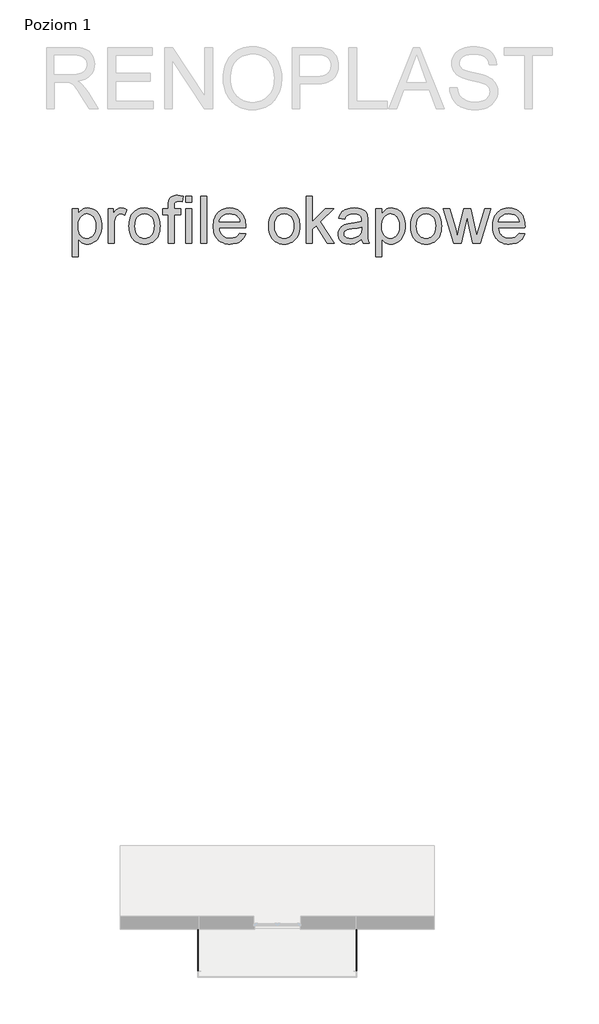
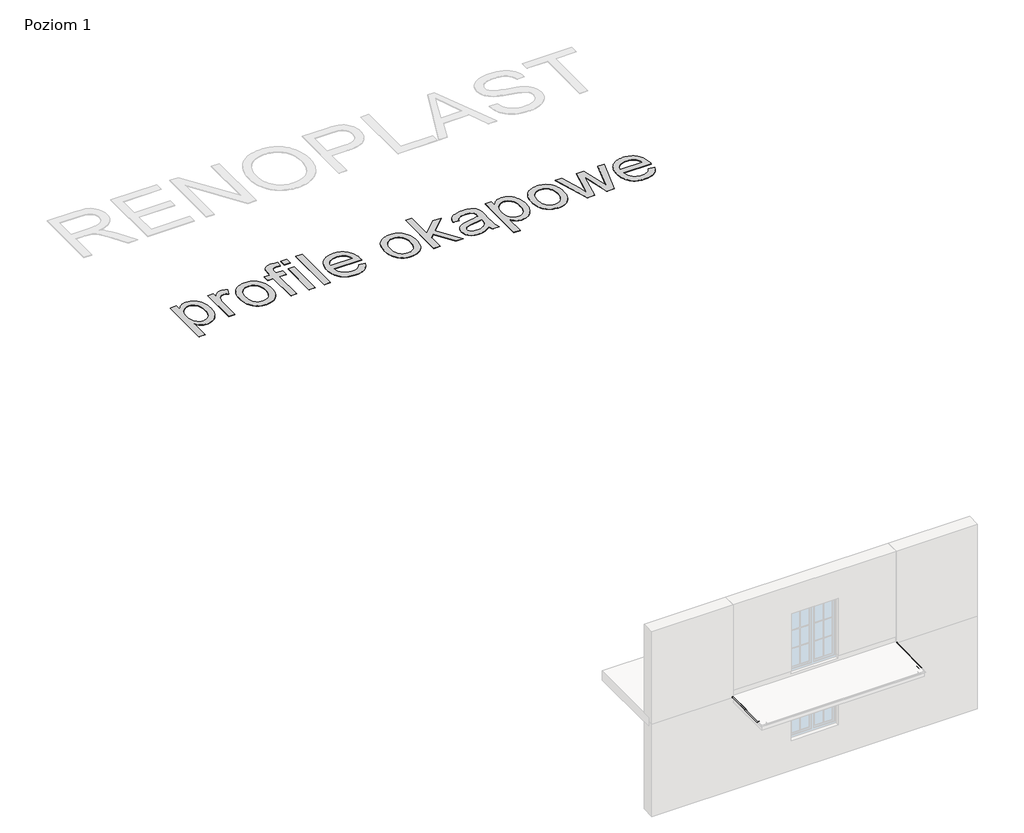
# One storey, part 2 of 3: 5 proxies.
"""IFC4 building model written with IfcOpenShell, lengths in millimetres."""

from ifc_helpers import new_model, si_unit, origin, origin_with_axes, place, context, project, spatial, polyline, outline, extrude, transform, mapped, element, save
from components import k10_195fb894, k10_5e8f6a10, opk10_a9e293d9, opk10_62074a0a

model = new_model("IFC4")

# Units and contexts
model_context = context("Model", 3, world=origin())
ifc_project = project(units=[si_unit("LENGTHUNIT", "METRE", prefix="MILLI")], contexts=[model_context])

# Site, building, storey
site = spatial("IfcSite", under=ifc_project)
building = spatial("IfcBuilding", under=site)
storey = spatial("IfcBuildingStorey", under=building, Name="Poziom 1", Elevation=0.0)

# Proxies
placement = place(None, origin())
element("IfcBuildingElementProxy", 1, Name="1500 mm Arial", ObjectType="1500 mm Arial", at=placement, inside=storey, context=model_context, shape_type="SweptSolid", body=[
    extrude(outline(polyline([(-113855.4830963, 53797.3435837), (-113855.4830963, 55327.7326836), (-113667.1275148, 55327.7326836), (-113667.1275148, 55143.055922), (-113637.3290732, 55191.857768), (-113605.6912216, 55234.1527011), (-113572.21396, 55269.9407214), (-113536.8972885, 55299.221829), (-113498.7295315, 55321.9960238), (-113456.6990136, 55338.2633057), (-113410.8057347, 55348.0236749), (-113361.0496948, 55351.2771313), (-113295.359766, 55346.7245916), (-113233.670554, 55333.0669725), (-113175.9820586, 55310.3042741), (-113122.2942799, 55278.4364963), (-113073.7798418, 55238.2913735), (-113031.6113681, 55190.6966404), (-112995.7888588, 55135.6522969), (-112966.312314, 55073.158343), (-112943.2966967, 55005.3530927), (-112926.85697, 54934.3748603), (-112916.993134, 54860.2236456), (-112913.7051887, 54782.8994488), (-112917.4184976, 54700.2294667), (-112928.5584242, 54621.8131201), (-112947.1249687, 54547.6504092), (-112973.1181309, 54477.7413338), (-113006.1815252, 54413.9138076), (-113045.9587659, 54357.9957443), (-113092.4498531, 54309.987144), (-113145.6547866, 54269.8880065), (-113202.9639037, 54238.2616512), (-113261.7675414, 54215.6713974), (-113322.0656996, 54202.1172452), (-113383.8583785, 54197.5991944), (-113428.3146184, 54200.6227246), (-113470.4486031, 54209.693315), (-113510.2603328, 54224.8109658), (-113547.7498074, 54245.9756768), (-113582.4571743, 54271.7619054), (-113613.9225812, 54300.7441088), (-113642.1460281, 54332.9222871), (-113667.1275148, 54368.2964402), (-113667.1275148, 53797.3435837), (-113855.4830963, 53797.3435837)]), holes=[polyline([(-113667.1275148, 54765.608995), (-113662.0346484, 54674.8341127), (-113646.7560493, 54596.7511592), (-113635.2971, 54562.4691558), (-113621.2917175, 54531.3601346), (-113604.7399017, 54503.4240955), (-113585.6416529, 54478.6610387), (-113542.7259189, 54438.1020488), (-113495.4645788, 54409.1313417), (-113443.8576327, 54391.7489174), (-113387.9050805, 54385.954776), (-113331.1477864, 54391.955851), (-113304.3470082, 54399.4571948), (-113278.5981426, 54409.9590761), (-113230.2561492, 54439.9644514), (-113186.1218061, 54481.9719767), (-113166.4200008, 54507.6259977), (-113149.3451029, 54536.5794604), (-113134.8971123, 54568.8323647), (-113123.0760292, 54604.3847106), (-113113.8818534, 54643.2364982), (-113107.3145849, 54685.3877274), (-113102.0607702, 54779.5885108), (-113107.1881255, 54869.5816439), (-113122.5701914, 54947.5266416), (-113134.1067409, 54981.9810897), (-113148.206968, 55013.423504), (-113164.8708727, 55041.8538844), (-113184.0984551, 55067.272231), (-113227.1176559, 55109.118808), (-113274.1375734, 55139.0092201), (-113325.1582076, 55156.9434674), (-113380.1795586, 55162.9215498), (-113408.0092567, 55161.3321846), (-113435.0284648, 55156.564089), (-113461.2371828, 55148.6172631), (-113486.6354109, 55137.4917069), (-113535.000397, 55105.7044032), (-113580.1234229, 55061.2021781), (-113600.515007, 55034.3324221), (-113618.1877131, 55004.5828398), (-113633.1415414, 54971.9534313), (-113645.3764918, 54936.4441965), (-113654.8925644, 54898.0551355), (-113661.689759, 54856.7862482), (-113667.1275148, 54765.608995)])]), origin_with_axes(), (0.0, 0.0, 1.0), 10.0),
    extrude(outline(polyline([(-112701.8051594, 54221.1436421), (-112701.8051594, 55327.7326836), (-112536.9940256, 55327.7326836), (-112536.9940256, 55164.0251958), (-112505.9539823, 55216.3564096), (-112476.1095554, 55258.9387505), (-112447.460745, 55291.7722186), (-112420.0075511, 55314.8568138), (-112392.508372, 55330.7907027), (-112363.7216059, 55342.1720519), (-112333.6472528, 55349.0008615), (-112302.2853127, 55351.2771313), (-112255.5642993, 55347.6442966), (-112208.4754039, 55336.7457925), (-112161.0186265, 55318.581619), (-112113.1939672, 55293.1517761), (-112176.1017883, 55124.2939403), (-112209.2111679, 55141.1935194), (-112242.3205475, 55153.2646474), (-112275.429927, 55160.5073242), (-112308.5393066, 55162.9215498), (-112337.4065469, 55160.5992947), (-112364.7792666, 55153.6325294), (-112390.6574657, 55142.0212539), (-112415.0411442, 55125.7654683), (-112437.0105971, 55105.3940028), (-112455.6461194, 55081.4356878), (-112470.9477112, 55053.8905235), (-112482.9153723, 55022.7585096), (-112496.2740873, 54971.3470008), (-112505.8160265, 54917.544259), (-112511.5411901, 54861.3502842), (-112513.4495779, 54802.7650765), (-112513.4495779, 54221.1436421), (-112701.8051594, 54221.1436421)])), origin_with_axes(), (0.0, 0.0, 1.0), 10.0),
    extrude(outline(polyline([(-112042.5606241, 54774.4381629), (-112040.0141909, 54848.5721331), (-112032.3748913, 54917.7511926), (-112019.6427254, 54981.9753416), (-112001.8176931, 55041.2445799), (-111978.8997945, 55095.5589076), (-111950.8890294, 55144.9183246), (-111917.785398, 55189.3228311), (-111879.5889002, 55228.7724269), (-111844.6286144, 55257.484467), (-111807.8059259, 55282.3682351), (-111769.1208349, 55303.4237312), (-111728.5733412, 55320.6509552), (-111686.163445, 55334.0499073), (-111641.8911461, 55343.6205873), (-111595.7564446, 55349.3629953), (-111547.7593406, 55351.2771313), (-111494.5572811, 55348.946254), (-111443.8441733, 55341.953622), (-111395.620017, 55330.2992353), (-111349.8848124, 55313.983094), (-111306.6385594, 55293.0051981), (-111265.8812581, 55267.3655475), (-111227.6129084, 55237.0641422), (-111191.8335102, 55202.1009823), (-111159.4570206, 55163.0278907), (-111131.3973962, 55120.3966904), (-111107.6546371, 55074.2073815), (-111088.2287434, 55024.4599638), (-111073.1197148, 54971.1544376), (-111062.3275516, 54914.2908026), (-111055.8522537, 54853.869059), (-111053.6938211, 54789.8892067), (-111057.5105968, 54689.0665474), (-111068.9609239, 54599.6022447), (-111088.0448024, 54521.4962986), (-111114.7622323, 54454.7487091), (-111148.7798205, 54397.0947026), (-111189.764174, 54346.2695057), (-111237.7152928, 54302.2731184), (-111292.6331769, 54265.1055405), (-111352.3795122, 54235.5715141), (-111414.8159846, 54214.475781), (-111479.942594, 54201.8183411), (-111547.7593406, 54197.5991944), (-111601.8006309, 54199.9214495), (-111653.1920211, 54206.8882148), (-111701.9335114, 54218.4994903), (-111748.0251017, 54234.7552759), (-111791.466792, 54255.6555718), (-111832.2585823, 54281.2003778), (-111870.4004726, 54311.3896941), (-111905.8924629, 54346.2235205), (-111937.9240632, 54385.4259456), (-111965.6847834, 54428.7210579), (-111989.1746236, 54476.1088574), (-112008.3935838, 54527.5893441), (-112023.3416639, 54583.162518), (-112034.018864, 54642.8283791), (-112040.4251841, 54706.5869274), (-112042.5606241, 54774.4381629)]), holes=[polyline([(-111854.2050426, 54774.8060449), (-111848.7557905, 54683.4448506), (-111841.9442254, 54642.3599044), (-111832.4080343, 54604.3387253), (-111820.1472172, 54569.3813136), (-111805.1617741, 54537.487669), (-111787.4517049, 54508.6577917), (-111767.0170097, 54482.8916817), (-111744.5187264, 54460.1720944), (-111720.6178931, 54440.4817854), (-111695.3145096, 54423.8207548), (-111668.608576, 54410.1890024), (-111640.5000923, 54399.5865283), (-111610.9890585, 54392.0133326), (-111547.7593406, 54385.954776), (-111484.8515194, 54392.0478215), (-111455.466945, 54399.6641284), (-111427.4619282, 54410.3269581), (-111400.8364688, 54424.0363106), (-111375.5905668, 54440.7921859), (-111351.7242224, 54460.5945839), (-111329.2374354, 54483.4435047), (-111308.8027402, 54509.4136743), (-111291.0926711, 54538.5798187), (-111276.1072279, 54570.941938), (-111263.8464108, 54606.5000321), (-111254.3102197, 54645.254101), (-111247.4986546, 54687.2041448), (-111242.0494026, 54780.6921568), (-111247.5331436, 54869.1562803), (-111254.3878198, 54909.1030917), (-111263.9843665, 54946.1930694), (-111276.3227838, 54980.4262135), (-111291.4030715, 55011.8025239), (-111309.2252297, 55040.3220008), (-111329.7892584, 55065.984644), (-111376.3148345, 55108.3945403), (-111401.5693587, 55125.055571), (-111428.1517069, 55138.6873233), (-111456.0618792, 55149.2897974), (-111485.2998756, 55156.8629932), (-111547.7593406, 55162.9215498), (-111610.9890585, 55156.8859858), (-111640.5000923, 55149.3415308), (-111668.608576, 55138.7792938), (-111695.3145096, 55125.1992749), (-111720.6178931, 55108.6014739), (-111744.5187264, 55088.985891), (-111767.0170097, 55066.352526), (-111787.4517049, 55040.6726383), (-111805.1617741, 55011.9174871), (-111820.1472172, 54980.0870723), (-111832.4080343, 54945.1813939), (-111841.9442254, 54907.200452), (-111848.7557905, 54866.1442465), (-111854.2050426, 54774.8060449)])]), origin_with_axes(), (0.0, 0.0, 1.0), 10.0),
    extrude(outline(polyline([(-110794.7048965, 54221.1436421), (-110794.7048965, 55139.3771021), (-110959.5160303, 55139.3771021), (-110959.5160303, 55327.7326836), (-110794.7048965, 55327.7326836), (-110794.7048965, 55439.2009282), (-110789.7384895, 55531.4473384), (-110783.5304808, 55567.2928403), (-110774.8392687, 55596.2865401), (-110758.4685199, 55629.2349713), (-110736.9474232, 55658.9184498), (-110710.2759786, 55685.3369756), (-110678.454186, 55708.4905486), (-110640.7922667, 55727.3215083), (-110596.600442, 55740.7721937), (-110545.878712, 55748.842605), (-110488.6270765, 55751.5327421), (-110406.865303, 55746.3823941), (-110316.8261847, 55730.9313503), (-110344.4173344, 55554.3479926), (-110400.2434271, 55560.9698686), (-110452.9425229, 55563.1771605), (-110491.811555, 55561.2227874), (-110524.5415562, 55555.3596681), (-110551.1325267, 55545.5878026), (-110571.5844664, 55531.9071909), (-110586.7940876, 55512.8922903), (-110597.6581028, 55487.117558), (-110604.1765119, 55454.5829941), (-110606.3493149, 55415.2885985), (-110606.3493149, 55327.7326836), (-110394.4492857, 55327.7326836), (-110394.4492857, 55139.3771021), (-110606.3493149, 55139.3771021), (-110606.3493149, 54221.1436421), (-110794.7048965, 54221.1436421)])), origin_with_axes(), (0.0, 0.0, 1.0), 10.0),
    extrude(outline(polyline([(-110229.6381519, 54221.1436421), (-110229.6381519, 55327.7326836), (-110041.2825703, 55327.7326836), (-110041.2825703, 54221.1436421), (-110229.6381519, 54221.1436421)])), origin_with_axes(), (0.0, 0.0, 1.0), 10.0),
    extrude(outline(polyline([(-110229.6381519, 55539.6327128), (-110229.6381519, 55727.9882944), (-110041.2825703, 55727.9882944), (-110041.2825703, 55539.6327128), (-110229.6381519, 55539.6327128)])), origin_with_axes(), (0.0, 0.0, 1.0), 10.0),
    extrude(outline(polyline([(-109758.749198, 54221.1436421), (-109758.749198, 55727.9882944), (-109570.3936165, 55727.9882944), (-109570.3936165, 54221.1436421), (-109758.749198, 54221.1436421)])), origin_with_axes(), (0.0, 0.0, 1.0), 10.0),
    extrude(outline(polyline([(-108513.1007624, 54550.7659098), (-108328.4240008, 54527.2214621), (-108356.7394181, 54453.2541885), (-108374.6133097, 54419.5642451), (-108394.9646567, 54388.0700974), (-108417.7934589, 54358.7717454), (-108443.0997165, 54331.669189), (-108470.8834293, 54306.7624283), (-108501.1445975, 54284.0514633), (-108533.733769, 54263.7892128), (-108568.5014916, 54246.2285957), (-108605.4477654, 54231.369612), (-108644.5725904, 54219.2122616), (-108729.357894, 54203.0024612), (-108822.8574023, 54197.5991944), (-108882.8853972, 54199.9300718), (-108939.7289136, 54206.9227037), (-108993.3879515, 54218.5770904), (-109043.8625109, 54234.8932317), (-109091.1525918, 54255.8711277), (-109135.2581941, 54281.5107783), (-109176.1793179, 54311.8121835), (-109213.9159632, 54346.7753435), (-109247.8013438, 54385.9461537), (-109277.1686737, 54428.87051), (-109302.0179529, 54475.5484122), (-109322.3491813, 54525.9798604), (-109338.1623589, 54580.1648546), (-109349.4574858, 54638.1033947), (-109356.2345619, 54699.7954809), (-109358.4935873, 54765.241113), (-109356.2115693, 54832.9141556), (-109349.3655153, 54896.6899484), (-109337.9554253, 54956.5684913), (-109321.9812993, 55012.5497842), (-109301.4431372, 55064.6338273), (-109276.3409392, 55112.8206206), (-109246.6747052, 55157.1101639), (-109212.4444352, 55197.5024573), (-109174.5755823, 55233.5433965), (-109133.9935997, 55264.7788772), (-109090.6984874, 55291.2088993), (-109044.6902454, 55312.8334628), (-108995.9688737, 55329.6525678), (-108944.5343722, 55341.6662142), (-108890.386741, 55348.874402), (-108833.5259802, 55351.2771313), (-108778.5247478, 55348.8801502), (-108726.0929413, 55341.6892068), (-108676.2305605, 55329.7043012), (-108628.9376056, 55312.9254333), (-108584.2140765, 55291.3526032), (-108542.0599732, 55264.9858108), (-108502.4752957, 55233.8250562), (-108465.460044, 55197.8703393), (-108431.9626639, 55157.5700164), (-108402.9316011, 55113.3724436), (-108378.3668557, 55065.2776208), (-108358.2684276, 55013.2855482), (-108342.6363169, 54957.3962258), (-108331.4705236, 54897.6096534), (-108324.7710475, 54833.9258311), (-108322.5378889, 54766.344759), (-108323.6415348, 54715.5770436), (-109170.1380058, 54715.5770436), (-109159.2280053, 54640.4141535), (-109149.7291773, 54606.3333355), (-109137.5344639, 54574.586269), (-109122.6438654, 54545.1729538), (-109105.0573815, 54518.0933901), (-109084.7750125, 54493.3475778), (-109061.7967582, 54470.9355168), (-109010.1438268, 54433.7564427), (-108952.4898204, 54407.1999612), (-108888.8347389, 54391.2660723), (-108819.1785824, 54385.954776), (-108767.0772948, 54388.4149868), (-108718.9307387, 54395.7956193), (-108674.738914, 54408.0966735), (-108634.5018208, 54425.3181494), (-108598.219459, 54447.9198995), (-108565.8918287, 54476.3617763), (-108537.5189298, 54510.6437797), (-108513.1007624, 54550.7659098)]), holes=[polyline([(-109170.1380058, 54903.9326252), (-108510.8934704, 54903.9326252), (-108520.5733654, 54957.2295292), (-108536.3692986, 55003.4447049), (-108558.2812699, 55042.5781521), (-108586.3092794, 55074.6298709), (-108611.1068251, 55095.3232332), (-108637.674803, 55113.2574804), (-108666.0132129, 55128.4326127), (-108696.122055, 55140.8486301), (-108761.6510354, 55157.4033198), (-108834.2617442, 55162.9215498), (-108900.4919996, 55158.5184621), (-108961.2270177, 55145.3091993), (-109016.4667986, 55123.2937611), (-109066.2113421, 55092.4721477), (-109107.9544523, 55054.2699018), (-109139.1899329, 55010.112566), (-109159.9177841, 54960.0001405), (-109170.1380058, 54903.9326252)])]), origin_with_axes(), (0.0, 0.0, 1.0), 10.0),
    extrude(outline(polyline([(-107592.6600104, 54774.4381629), (-107590.1135772, 54848.5721331), (-107582.4742777, 54917.7511926), (-107569.7421118, 54981.9753416), (-107551.9170795, 55041.2445799), (-107528.9991808, 55095.5589076), (-107500.9884158, 55144.9183246), (-107467.8847843, 55189.3228311), (-107429.6882866, 55228.7724269), (-107394.7280007, 55257.484467), (-107357.9053123, 55282.3682351), (-107319.2202212, 55303.4237312), (-107278.6727275, 55320.6509552), (-107236.2628313, 55334.0499073), (-107191.9905324, 55343.6205873), (-107145.855831, 55349.3629953), (-107097.8587269, 55351.2771313), (-107044.6566674, 55348.946254), (-106993.9435596, 55341.953622), (-106945.7194034, 55330.2992353), (-106899.9841988, 55313.983094), (-106856.7379458, 55293.0051981), (-106815.9806444, 55267.3655475), (-106777.7122947, 55237.0641422), (-106741.9328966, 55202.1009823), (-106709.5564069, 55163.0278907), (-106681.4967826, 55120.3966904), (-106657.7540235, 55074.2073815), (-106638.3281297, 55024.4599638), (-106623.2191012, 54971.1544376), (-106612.426938, 54914.2908026), (-106605.95164, 54853.869059), (-106603.7932074, 54789.8892067), (-106607.6099831, 54689.0665474), (-106619.0603102, 54599.6022447), (-106638.1441887, 54521.4962986), (-106664.8616186, 54454.7487091), (-106698.8792068, 54397.0947026), (-106739.8635604, 54346.2695057), (-106787.8146792, 54302.2731184), (-106842.7325633, 54265.1055405), (-106902.4788985, 54235.5715141), (-106964.9153709, 54214.475781), (-107030.0419804, 54201.8183411), (-107097.8587269, 54197.5991944), (-107151.9000172, 54199.9214495), (-107203.2914075, 54206.8882148), (-107252.0328978, 54218.4994903), (-107298.124488, 54234.7552759), (-107341.5661783, 54255.6555718), (-107382.3579686, 54281.2003778), (-107420.4998589, 54311.3896941), (-107455.9918492, 54346.2235205), (-107488.0234495, 54385.4259456), (-107515.7841698, 54428.7210579), (-107539.27401, 54476.1088574), (-107558.4929701, 54527.5893441), (-107573.4410503, 54583.162518), (-107584.1182504, 54642.8283791), (-107590.5245704, 54706.5869274), (-107592.6600104, 54774.4381629)]), holes=[polyline([(-107404.3044289, 54774.8060449), (-107398.8551768, 54683.4448506), (-107392.0436118, 54642.3599044), (-107382.5074207, 54604.3387253), (-107370.2466036, 54569.3813136), (-107355.2611604, 54537.487669), (-107337.5510912, 54508.6577917), (-107317.116396, 54482.8916817), (-107294.6181128, 54460.1720944), (-107270.7172794, 54440.4817854), (-107245.4138959, 54423.8207548), (-107218.7079623, 54410.1890024), (-107190.5994786, 54399.5865283), (-107161.0884448, 54392.0133326), (-107097.8587269, 54385.954776), (-107034.9509057, 54392.0478215), (-107005.5663314, 54399.6641284), (-106977.5613145, 54410.3269581), (-106950.9358551, 54424.0363106), (-106925.6899532, 54440.7921859), (-106901.8236087, 54460.5945839), (-106879.3368218, 54483.4435047), (-106858.9021266, 54509.4136743), (-106841.1920574, 54538.5798187), (-106826.2066143, 54570.941938), (-106813.9457971, 54606.5000321), (-106804.409606, 54645.254101), (-106797.598041, 54687.2041448), (-106792.1487889, 54780.6921568), (-106797.6325299, 54869.1562803), (-106804.4872062, 54909.1030917), (-106814.0837529, 54946.1930694), (-106826.4221701, 54980.4262135), (-106841.5024578, 55011.8025239), (-106859.3246161, 55040.3220008), (-106879.8886448, 55065.984644), (-106926.4142209, 55108.3945403), (-106951.668745, 55125.055571), (-106978.2510932, 55138.6873233), (-107006.1612655, 55149.2897974), (-107035.3992619, 55156.8629932), (-107097.8587269, 55162.9215498), (-107161.0884448, 55156.8859858), (-107190.5994786, 55149.3415308), (-107218.7079623, 55138.7792938), (-107245.4138959, 55125.1992749), (-107270.7172794, 55108.6014739), (-107294.6181128, 55088.985891), (-107317.116396, 55066.352526), (-107337.5510912, 55040.6726383), (-107355.2611604, 55011.9174871), (-107370.2466036, 54980.0870723), (-107382.5074207, 54945.1813939), (-107392.0436118, 54907.200452), (-107398.8551768, 54866.1442465), (-107404.3044289, 54774.8060449)])]), origin_with_axes(), (0.0, 0.0, 1.0), 10.0),
    extrude(outline(polyline([(-106391.8931782, 54221.1436421), (-106391.8931782, 55727.9882944), (-106203.5375966, 55727.9882944), (-106203.5375966, 54918.280023), (-105781.2090662, 55327.7326836), (-105520.7486136, 55327.7326836), (-105948.227492, 54913.1296751), (-105497.2041659, 54221.1436421), (-105717.197599, 54221.1436421), (-106083.2401842, 54782.1636848), (-106203.5375966, 54665.5450923), (-106203.5375966, 54221.1436421), (-106391.8931782, 54221.1436421)])), origin_with_axes(), (0.0, 0.0, 1.0), 10.0),
    extrude(outline(polyline([(-104626.0596013, 54362.4103283), (-104670.7227748, 54320.4947734), (-104716.0527344, 54285.2470798), (-104762.0494801, 54256.6672473), (-104808.7130119, 54234.7552759), (-104856.5721602, 54218.4994903), (-104906.1557554, 54206.8882148), (-104957.4637974, 54199.9214495), (-105010.4962863, 54197.5991944), (-105094.3618849, 54203.1864022), (-105132.423301, 54210.170412), (-105167.903795, 54219.9480256), (-105200.8033668, 54232.5192432), (-105231.1220166, 54247.8840646), (-105258.8597442, 54266.04249), (-105284.0165497, 54286.9945193), (-105306.3912476, 54310.1193516), (-105325.7826525, 54334.796186), (-105342.1907643, 54361.0250226), (-105355.615583, 54388.8058614), (-105366.0571087, 54418.1387024), (-105373.5153413, 54449.0235455), (-105379.4819274, 54515.4492383), (-105377.2286502, 54555.3874274), (-105370.4688186, 54593.5321917), (-105359.2024325, 54629.8835314), (-105343.4294919, 54664.4414463), (-105323.9892277, 54696.4471799), (-105301.7208707, 54725.1419755), (-105276.6244209, 54750.5258332), (-105248.6998782, 54772.5987529), (-105186.3898652, 54808.4672474), (-105116.8141829, 54834.4029281), (-105049.0319253, 54848.8422964), (-104953.842459, 54862.7298417), (-104850.2376921, 54876.985269), (-104761.2562346, 54892.5282833), (-104686.8980863, 54909.3588846), (-104627.1632473, 54927.4770729), (-104626.0596013, 54969.4156203), (-104629.3015614, 55015.078973), (-104639.0274417, 55053.4766562), (-104655.2372421, 55084.6086701), (-104677.9309626, 55108.4750145), (-104717.1563804, 55132.2953737), (-104764.9350545, 55149.309916), (-104821.266985, 55159.5186413), (-104886.1521719, 55162.9215498), (-104946.4848191, 55160.6567762), (-104998.3561804, 55153.8624556), (-105041.7662559, 55142.538588), (-105076.7150454, 55126.6851733), (-105105.4328337, 55105.0606097), (-105130.1499052, 55076.4232957), (-105150.8662601, 55040.7732311), (-105167.5818982, 54998.1104159), (-105355.9374798, 55021.6548636), (-105341.6015783, 55075.9174579), (-105323.2419674, 55124.6618223), (-105300.8586473, 55167.8879567), (-105274.4516178, 55205.5958612), (-105242.8827441, 55238.5442924), (-105205.0138912, 55267.4920069), (-105160.8450592, 55292.4390047), (-105110.376248, 55313.3852858), (-105054.6306294, 55329.9629682), (-104994.6313752, 55341.8041699), (-104930.3784855, 55348.908891), (-104861.8719602, 55351.2771313), (-104794.9059408, 55349.1848025), (-104734.5388047, 55342.9078159), (-104680.7705518, 55332.4461717), (-104633.6011822, 55317.7998697), (-104592.6398213, 55299.9920819), (-104557.4955945, 55280.04598), (-104528.1685017, 55257.961564), (-104504.6585429, 55233.7388338), (-104485.597657, 55206.7799814), (-104469.6177829, 55176.4871983), (-104456.7189204, 55142.8604847), (-104446.9010697, 55105.8998405), (-104440.0032823, 55040.7847274), (-104437.7040198, 54941.0887067), (-104437.7040198, 54706.7478758), (-104435.3127868, 54502.6193537), (-104428.1390879, 54379.516841), (-104413.9756311, 54298.6287874), (-104390.6151244, 54221.1436421), (-104578.9707059, 54221.1436421), (-104595.7093367, 54252.5975527), (-104609.1370295, 54286.6266373), (-104619.2537844, 54323.2308958), (-104626.0596013, 54362.4103283)]), holes=[polyline([(-104626.0596013, 54739.1214913), (-104682.9893401, 54722.8197204), (-104752.6110077, 54707.7595512), (-104929.9301293, 54681.3640181), (-105027.6487843, 54666.9246498), (-105091.9821482, 54650.8298125), (-105134.1506219, 54629.9525093), (-105151.1306753, 54616.5478091), (-105165.3746063, 54601.1657431), (-105176.6409924, 54584.3581345), (-105184.688411, 54566.6768061), (-105189.5168622, 54548.121758), (-105191.1263459, 54528.6929901), (-105187.6199707, 54499.4233788), (-105177.1008449, 54472.6829563), (-105159.5689685, 54448.4717225), (-105135.0243417, 54426.7896774), (-105103.6968905, 54408.924408), (-105065.8165413, 54396.1635013), (-105021.3832941, 54388.5069573), (-104970.3971488, 54385.954776), (-104918.3418465, 54388.7713725), (-104869.2296001, 54397.2211621), (-104823.0604097, 54411.3041447), (-104779.8342753, 54431.0203204), (-104740.8387838, 54454.7372127), (-104707.3615223, 54480.8223455), (-104679.4024906, 54509.2757185), (-104656.9616889, 54540.0973319), (-104643.9248707, 54567.6884816), (-104634.6128577, 54601.1657431), (-104629.0256499, 54640.5291166), (-104627.1632473, 54685.778602), (-104626.0596013, 54739.1214913)])]), origin_with_axes(), (0.0, 0.0, 1.0), 10.0),
    extrude(outline(polyline([(-104178.7150952, 53797.3435837), (-104178.7150952, 55327.7326836), (-103990.3595137, 55327.7326836), (-103990.3595137, 55143.055922), (-103960.5610721, 55191.857768), (-103928.9232205, 55234.1527011), (-103895.4459589, 55269.9407214), (-103860.1292874, 55299.221829), (-103821.9615304, 55321.9960238), (-103779.9310124, 55338.2633057), (-103734.0377335, 55348.0236749), (-103684.2816937, 55351.2771313), (-103618.5917649, 55346.7245916), (-103556.9025528, 55333.0669725), (-103499.2140575, 55310.3042741), (-103445.5262788, 55278.4364963), (-103397.0118407, 55238.2913735), (-103354.843367, 55190.6966404), (-103319.0208577, 55135.6522969), (-103289.5443128, 55073.158343), (-103266.5286955, 55005.3530927), (-103250.0889689, 54934.3748603), (-103240.2251329, 54860.2236456), (-103236.9371875, 54782.8994488), (-103240.6504964, 54700.2294667), (-103251.7904231, 54621.8131201), (-103270.3569675, 54547.6504092), (-103296.3501298, 54477.7413338), (-103329.4135241, 54413.9138076), (-103369.1907648, 54357.9957443), (-103415.6818519, 54309.987144), (-103468.8867855, 54269.8880065), (-103526.1959026, 54238.2616512), (-103584.9995402, 54215.6713974), (-103645.2976985, 54202.1172452), (-103707.0903774, 54197.5991944), (-103751.5466172, 54200.6227246), (-103793.680602, 54209.693315), (-103833.4923317, 54224.8109658), (-103870.9818062, 54245.9756768), (-103905.6891732, 54271.7619054), (-103937.1545801, 54300.7441088), (-103965.3780269, 54332.9222871), (-103990.3595137, 54368.2964402), (-103990.3595137, 53797.3435837), (-104178.7150952, 53797.3435837)]), holes=[polyline([(-103990.3595137, 54765.608995), (-103985.2666473, 54674.8341127), (-103969.9880482, 54596.7511592), (-103958.5290988, 54562.4691558), (-103944.5237163, 54531.3601346), (-103927.9719006, 54503.4240955), (-103908.8736517, 54478.6610387), (-103865.9579177, 54438.1020488), (-103818.6965777, 54409.1313417), (-103767.0896315, 54391.7489174), (-103711.1370793, 54385.954776), (-103654.3797853, 54391.955851), (-103627.5790071, 54399.4571948), (-103601.8301415, 54409.9590761), (-103553.4881481, 54439.9644514), (-103509.353805, 54481.9719767), (-103489.6519997, 54507.6259977), (-103472.5771018, 54536.5794604), (-103458.1291112, 54568.8323647), (-103446.308028, 54604.3847106), (-103437.1138522, 54643.2364982), (-103430.5465838, 54685.3877274), (-103425.2927691, 54779.5885108), (-103430.4201244, 54869.5816439), (-103445.8021903, 54947.5266416), (-103457.3387397, 54981.9810897), (-103471.4389668, 55013.423504), (-103488.1028716, 55041.8538844), (-103507.330454, 55067.272231), (-103550.3496548, 55109.118808), (-103597.3695723, 55139.0092201), (-103648.3902065, 55156.9434674), (-103703.4115574, 55162.9215498), (-103731.2412555, 55161.3321846), (-103758.2604636, 55156.564089), (-103784.4691817, 55148.6172631), (-103809.8674098, 55137.4917069), (-103858.2323958, 55105.7044032), (-103903.3554218, 55061.2021781), (-103923.7470058, 55034.3324221), (-103941.419712, 55004.5828398), (-103956.3735403, 54971.9534313), (-103968.6084907, 54936.4441965), (-103978.1245632, 54898.0551355), (-103984.9217579, 54856.7862482), (-103990.3595137, 54765.608995)])]), origin_with_axes(), (0.0, 0.0, 1.0), 10.0),
    extrude(outline(polyline([(-103072.1260537, 54774.4381629), (-103069.5796205, 54848.5721331), (-103061.940321, 54917.7511926), (-103049.208155, 54981.9753416), (-103031.3831227, 55041.2445799), (-103008.4652241, 55095.5589076), (-102980.454459, 55144.9183246), (-102947.3508276, 55189.3228311), (-102909.1543298, 55228.7724269), (-102874.194044, 55257.484467), (-102837.3713555, 55282.3682351), (-102798.6862645, 55303.4237312), (-102758.1387708, 55320.6509552), (-102715.7288746, 55334.0499073), (-102671.4565757, 55343.6205873), (-102625.3218742, 55349.3629953), (-102577.3247702, 55351.2771313), (-102524.1227107, 55348.946254), (-102473.4096029, 55341.953622), (-102425.1854466, 55330.2992353), (-102379.450242, 55313.983094), (-102336.2039891, 55293.0051981), (-102295.4466877, 55267.3655475), (-102257.178338, 55237.0641422), (-102221.3989399, 55202.1009823), (-102189.0224502, 55163.0278907), (-102160.9628258, 55120.3966904), (-102137.2200668, 55074.2073815), (-102117.794173, 55024.4599638), (-102102.6851445, 54971.1544376), (-102091.8929812, 54914.2908026), (-102085.4176833, 54853.869059), (-102083.2592507, 54789.8892067), (-102087.0760264, 54689.0665474), (-102098.5263535, 54599.6022447), (-102117.610232, 54521.4962986), (-102144.3276619, 54454.7487091), (-102178.3452501, 54397.0947026), (-102219.3296036, 54346.2695057), (-102267.2807224, 54302.2731184), (-102322.1986065, 54265.1055405), (-102381.9449418, 54235.5715141), (-102444.3814142, 54214.475781), (-102509.5080236, 54201.8183411), (-102577.3247702, 54197.5991944), (-102631.3660605, 54199.9214495), (-102682.7574507, 54206.8882148), (-102731.498941, 54218.4994903), (-102777.5905313, 54234.7552759), (-102821.0322216, 54255.6555718), (-102861.8240119, 54281.2003778), (-102899.9659022, 54311.3896941), (-102935.4578925, 54346.2235205), (-102967.4894928, 54385.4259456), (-102995.250213, 54428.7210579), (-103018.7400532, 54476.1088574), (-103037.9590134, 54527.5893441), (-103052.9070935, 54583.162518), (-103063.5842936, 54642.8283791), (-103069.9906137, 54706.5869274), (-103072.1260537, 54774.4381629)]), holes=[polyline([(-102883.7704722, 54774.8060449), (-102878.3212201, 54683.4448506), (-102871.509655, 54642.3599044), (-102861.973464, 54604.3387253), (-102849.7126468, 54569.3813136), (-102834.7272037, 54537.487669), (-102817.0171345, 54508.6577917), (-102796.5824393, 54482.8916817), (-102774.084156, 54460.1720944), (-102750.1833227, 54440.4817854), (-102724.8799392, 54423.8207548), (-102698.1740056, 54410.1890024), (-102670.0655219, 54399.5865283), (-102640.5544881, 54392.0133326), (-102577.3247702, 54385.954776), (-102514.416949, 54392.0478215), (-102485.0323746, 54399.6641284), (-102457.0273578, 54410.3269581), (-102430.4018984, 54424.0363106), (-102405.1559964, 54440.7921859), (-102381.289652, 54460.5945839), (-102358.8028651, 54483.4435047), (-102338.3681699, 54509.4136743), (-102320.6581007, 54538.5798187), (-102305.6726575, 54570.941938), (-102293.4118404, 54606.5000321), (-102283.8756493, 54645.254101), (-102277.0640842, 54687.2041448), (-102271.6148322, 54780.6921568), (-102277.0985732, 54869.1562803), (-102283.9532494, 54909.1030917), (-102293.5497962, 54946.1930694), (-102305.8882134, 54980.4262135), (-102320.9685011, 55011.8025239), (-102338.7906593, 55040.3220008), (-102359.354688, 55065.984644), (-102405.8802641, 55108.3945403), (-102431.1347883, 55125.055571), (-102457.7171365, 55138.6873233), (-102485.6273088, 55149.2897974), (-102514.8653052, 55156.8629932), (-102577.3247702, 55162.9215498), (-102640.5544881, 55156.8859858), (-102670.0655219, 55149.3415308), (-102698.1740056, 55138.7792938), (-102724.8799392, 55125.1992749), (-102750.1833227, 55108.6014739), (-102774.084156, 55088.985891), (-102796.5824393, 55066.352526), (-102817.0171345, 55040.6726383), (-102834.7272037, 55011.9174871), (-102849.7126468, 54980.0870723), (-102861.973464, 54945.1813939), (-102871.509655, 54907.200452), (-102878.3212201, 54866.1442465), (-102883.7704722, 54774.8060449)])]), origin_with_axes(), (0.0, 0.0, 1.0), 10.0),
    extrude(outline(polyline([(-101687.7861058, 54221.1436421), (-102024.3981314, 55327.7326836), (-101828.68491, 55327.7326836), (-101637.7541545, 54682.0997821), (-101580.7324453, 54451.4377711), (-101534.0114319, 54673.6384962), (-101382.0761679, 55327.7326836), (-101157.6681508, 55327.7326836), (-101006.4686508, 54675.4779062), (-100964.8979853, 54474.2464548), (-100905.3011021, 54686.514366), (-100714.0024646, 55327.7326836), (-100517.5534792, 55327.7326836), (-100856.7406787, 54221.1436421), (-101084.4596338, 54221.1436421), (-101229.0372579, 54870.0874816), (-101270.9758053, 55072.422579), (-101457.4919769, 54221.1436421), (-101687.7861058, 54221.1436421)])), origin_with_axes(), (0.0, 0.0, 1.0), 10.0),
    extrude(outline(polyline([(-99613.299535, 54550.7659098), (-99428.6227735, 54527.2214621), (-99456.9381908, 54453.2541885), (-99474.8120824, 54419.5642451), (-99495.1634293, 54388.0700974), (-99517.9922316, 54358.7717454), (-99543.2984892, 54331.669189), (-99571.082202, 54306.7624283), (-99601.3433702, 54284.0514633), (-99633.9325416, 54263.7892128), (-99668.7002643, 54246.2285957), (-99705.6465381, 54231.369612), (-99744.7713631, 54219.2122616), (-99829.5566666, 54203.0024612), (-99923.056175, 54197.5991944), (-99983.0841699, 54199.9300718), (-100039.9276863, 54206.9227037), (-100093.5867242, 54218.5770904), (-100144.0612836, 54234.8932317), (-100191.3513644, 54255.8711277), (-100235.4569668, 54281.5107783), (-100276.3780906, 54311.8121835), (-100314.1147359, 54346.7753435), (-100348.0001165, 54385.9461537), (-100377.3674464, 54428.87051), (-100402.2167255, 54475.5484122), (-100422.5479539, 54525.9798604), (-100438.3611316, 54580.1648546), (-100449.6562585, 54638.1033947), (-100456.4333346, 54699.7954809), (-100458.69236, 54765.241113), (-100456.410342, 54832.9141556), (-100449.564288, 54896.6899484), (-100438.154198, 54956.5684913), (-100422.1800719, 55012.5497842), (-100401.6419099, 55064.6338273), (-100376.5397119, 55112.8206206), (-100346.8734779, 55157.1101639), (-100312.6432079, 55197.5024573), (-100274.774355, 55233.5433965), (-100234.1923724, 55264.7788772), (-100190.8972601, 55291.2088993), (-100144.8890181, 55312.8334628), (-100096.1676463, 55329.6525678), (-100044.7331449, 55341.6662142), (-99990.5855137, 55348.874402), (-99933.7247528, 55351.2771313), (-99878.7235205, 55348.8801502), (-99826.2917139, 55341.6892068), (-99776.4293332, 55329.7043012), (-99729.1363783, 55312.9254333), (-99684.4128492, 55291.3526032), (-99642.2587459, 55264.9858108), (-99602.6740684, 55233.8250562), (-99565.6588167, 55197.8703393), (-99532.1614366, 55157.5700164), (-99503.1303738, 55113.3724436), (-99478.5656284, 55065.2776208), (-99458.4672003, 55013.2855482), (-99442.8350896, 54957.3962258), (-99431.6692962, 54897.6096534), (-99424.9698202, 54833.9258311), (-99422.7366615, 54766.344759), (-99423.8403075, 54715.5770436), (-100270.3367784, 54715.5770436), (-100259.426778, 54640.4141535), (-100249.9279499, 54606.3333355), (-100237.7332366, 54574.586269), (-100222.842638, 54545.1729538), (-100205.2561542, 54518.0933901), (-100184.9737852, 54493.3475778), (-100161.9955309, 54470.9355168), (-100110.3425995, 54433.7564427), (-100052.688593, 54407.1999612), (-99989.0335116, 54391.2660723), (-99919.377355, 54385.954776), (-99867.2760675, 54388.4149868), (-99819.1295113, 54395.7956193), (-99774.9376867, 54408.0966735), (-99734.7005935, 54425.3181494), (-99698.4182317, 54447.9198995), (-99666.0906014, 54476.3617763), (-99637.7177025, 54510.6437797), (-99613.299535, 54550.7659098)]), holes=[polyline([(-100270.3367784, 54903.9326252), (-99611.0922431, 54903.9326252), (-99620.7721381, 54957.2295292), (-99636.5680712, 55003.4447049), (-99658.4800426, 55042.5781521), (-99686.5080521, 55074.6298709), (-99711.3055978, 55095.3232332), (-99737.8735757, 55113.2574804), (-99766.2119856, 55128.4326127), (-99796.3208276, 55140.8486301), (-99861.849808, 55157.4033198), (-99934.4605168, 55162.9215498), (-100000.6907723, 55158.5184621), (-100061.4257904, 55145.3091993), (-100116.6655713, 55123.2937611), (-100166.4101148, 55092.4721477), (-100208.1532249, 55054.2699018), (-100239.3887056, 55010.112566), (-100260.1165568, 54960.0001405), (-100270.3367784, 54903.9326252)])]), origin_with_axes(), (0.0, 0.0, 1.0), 10.0),
])
k10_shape = k10_195fb894(model_context)
element("IfcBuildingElementProxy", 2, Name="K10 Profil okapowy prosty bez rynny : K10", ObjectType="K10 Profil okapowy prosty bez rynny : K10", at=placement, inside=storey, context=model_context, shape_type="MappedRepresentation", body=[
    mapped(k10_shape, transform((-104813.173413, 31031.9647948, -110.6821923), x_axis=(-8.293372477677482e-05, 0.9998020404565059, 0.019896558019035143), y_axis=(-0.9999999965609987, -8.291730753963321e-05, -1.6500956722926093e-06), z_axis=(0.0, -0.019896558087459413, 0.9998020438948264))),
])
k10_2_shape = k10_5e8f6a10(model_context)
element("IfcBuildingElementProxy", 3, Name="K10 Profil okapowy prosty bez rynny : K10", ObjectType="K10 Profil okapowy prosty bez rynny : K10", at=placement, inside=storey, context=model_context, shape_type="MappedRepresentation", body=[
    mapped(k10_2_shape, transform((-109813.173413, 31035.2112703, -110.6175858), x_axis=(0.0, 0.9998020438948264, 0.019896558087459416), y_axis=(-1.0, 0.0, 0.0), z_axis=(0.0, -0.019896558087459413, 0.9998020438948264))),
])
opk10_shape = opk10_a9e293d9(model_context)
element("IfcBuildingElementProxy", 4, Name="Odbojnik - OPK10 : OPK10", ObjectType="Odbojnik - OPK10 : OPK10", at=placement, inside=storey, context=model_context, shape_type="MappedRepresentation", body=[
    mapped(opk10_shape, transform((-104755.464538, 32361.422943, -150.0186974), x_axis=(8.293372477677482e-05, -0.9998020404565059, -0.019896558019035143), y_axis=(0.9999999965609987, 8.291730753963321e-05, 1.6500956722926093e-06), z_axis=(0.0, -0.019896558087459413, 0.9998020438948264))),
])
opk10_2_shape = opk10_62074a0a(model_context)
element("IfcBuildingElementProxy", 5, Name="Odbojnik - OPK10 : OPK10", ObjectType="Odbojnik - OPK10 : OPK10", at=placement, inside=storey, context=model_context, shape_type="MappedRepresentation", body=[
    mapped(opk10_2_shape, transform((-109870.992458, 32363.4573457, -149.9782118), x_axis=(0.0, -0.9998020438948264, -0.019896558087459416), y_axis=(1.0, 0.0, 0.0), z_axis=(0.0, -0.019896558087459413, 0.9998020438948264))),
])

save(model, "model.ifc")
